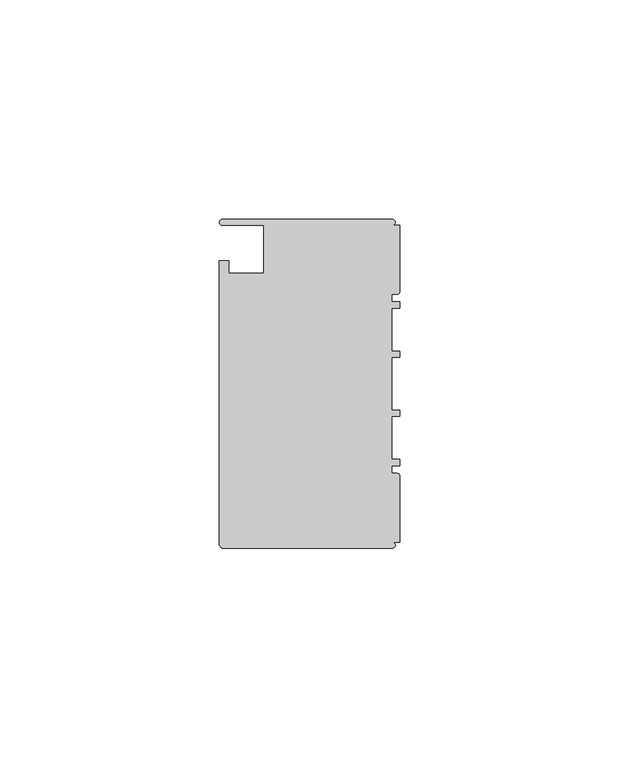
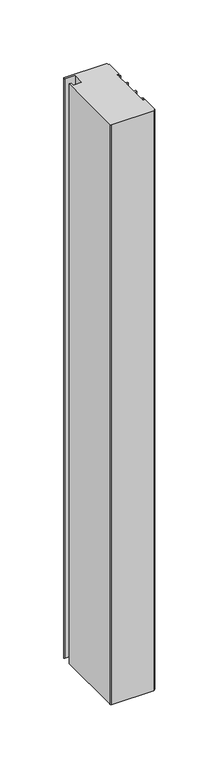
"""IFC4 building model written with IfcOpenShell, lengths in millimetres: member geometry, Прямоугольный импост : 1-AMG-1-Профиль 40Х75 Верх П."""

import ifcopenshell
import ifcopenshell.guid

model = None  # the IFC model being written
_history = None  # IfcOwnerHistory: only IFC2X3 demands one
_inside = {}  # id of a spatial element -> (the spatial element, [elements in it])
_under = {}  # id of a project, library or spatial element -> (it, [spatial elements below it])
_declared = {}  # id of a project -> (the project, [libraries it declares])
_typed = {}  # id of a type object -> (the type object, [elements of that type])
_made_of = {}  # id of a material, layer set ... -> (it, [elements and type objects made of it])


def new_model(schema):
    """Start an empty IFC model of exactly this schema.

    Asked for "IFC4X3", IfcOpenShell would pick the latest addendum, in which some entities
    have other attributes; the version numbers below select the first issue.
    IFC2X3 requires an IfcOwnerHistory on every rooted entity: one is made here for all.
    """
    global model, _history
    if schema == "IFC4X3":
        model = ifcopenshell.file(schema_version=(4, 3, 0, 0))
    else:
        model = ifcopenshell.file(schema=schema)
    _inside.clear()
    _under.clear()
    _declared.clear()
    _typed.clear()
    _made_of.clear()
    _history = None
    if model.schema == "IFC2X3":
        org = make("IfcOrganization", Name="unknown")
        user = make(
            "IfcPersonAndOrganization",
            ThePerson=make("IfcPerson", FamilyName="unknown"),
            TheOrganization=org,
        )
        app = make(
            "IfcApplication",
            ApplicationDeveloper=org,
            Version="unknown",
            ApplicationFullName="unknown",
            ApplicationIdentifier="unknown",
        )
        _history = make(
            "IfcOwnerHistory",
            OwningUser=user,
            OwningApplication=app,
            ChangeAction="ADDED",
            CreationDate=0,
        )
    return model


def make(cls, **values):
    """One entity of the class cls with the attributes given. An attribute that is None is left unset."""
    return model.create_entity(
        cls, **{name: value for name, value in values.items() if value is not None}
    )


def rooted(cls, **values):
    """An entity with a GlobalId (a new one), such as an element, a storey or a relation."""
    return make(cls, GlobalId=ifcopenshell.guid.new(), OwnerHistory=_history, **values)


def si_unit(unit_type, name, prefix=None):
    """IfcSIUnit, for example si_unit("LENGTHUNIT", "METRE", prefix="MILLI")."""
    return make("IfcSIUnit", UnitType=unit_type, Prefix=prefix, Name=name)


def assignment(units):
    """IfcUnitAssignment: the units of a project."""
    return None if units is None else make("IfcUnitAssignment", Units=units)


def point(xyz):
    """IfcCartesianPoint."""
    return None if xyz is None else make("IfcCartesianPoint", Coordinates=xyz)


def direction(xyz):
    """IfcDirection."""
    return None if xyz is None else make("IfcDirection", DirectionRatios=xyz)


def frame(location, z_axis=None, x_axis=None):
    """IfcAxis2Placement3D, a coordinate frame: its origin and axes. An axis left out is left unset."""
    return make(
        "IfcAxis2Placement3D",
        Location=point(location),
        Axis=direction(z_axis),
        RefDirection=direction(x_axis),
    )


def frame_2d(location, x_axis=None):
    """IfcAxis2Placement2D, a coordinate frame in the plane: its origin and x axis."""
    return make(
        "IfcAxis2Placement2D", Location=point(location), RefDirection=direction(x_axis)
    )


def origin():
    """The frame at (0, 0, 0) with its axes left unset."""
    return frame((0.0, 0.0, 0.0))


def place(relative_to, where):
    """IfcLocalPlacement: puts the frame where relative to a parent placement (None: the world)."""
    return make(
        "IfcLocalPlacement", PlacementRelTo=relative_to, RelativePlacement=where
    )


def context(
    kind, dimensions, precision=None, world=None, true_north=None, identifier=None
):
    """IfcGeometricRepresentationContext, for example the 3D "Model" context."""
    return make(
        "IfcGeometricRepresentationContext",
        ContextIdentifier=identifier,
        ContextType=kind,
        CoordinateSpaceDimension=dimensions,
        Precision=precision,
        WorldCoordinateSystem=world,
        TrueNorth=true_north,
    )


def project(units=None, contexts=None):
    """IfcProject with its units and contexts."""
    return rooted(
        "IfcProject",
        Name="project",
        RepresentationContexts=contexts,
        UnitsInContext=assignment(units),
    )


def spatial(cls, under=None, at=None, **own):
    """A site, building, storey or space (cls), placed at a placement, below another one or the project."""
    s = rooted(cls, ObjectPlacement=at, **own)
    if under is not None:
        _under.setdefault(under.id(), (under, []))[1].append(s)
    return s


def polyline(points):
    """IfcPolyline through the points."""
    return make("IfcPolyline", Points=[point(p) for p in points])


def circle_curve(where, radius):
    """IfcCircle in the frame where."""
    return make("IfcCircle", Position=where, Radius=radius)


def trimmed(basis, trim1, trim2, sense, master):
    """IfcTrimmedCurve: the piece of a basis curve between two trims."""
    return make(
        "IfcTrimmedCurve",
        BasisCurve=basis,
        Trim1=trim1,
        Trim2=trim2,
        SenseAgreement=sense,
        MasterRepresentation=master,
    )


def segment(curve, same_sense, transition):
    """IfcCompositeCurveSegment."""
    return make(
        "IfcCompositeCurveSegment",
        Transition=transition,
        SameSense=same_sense,
        ParentCurve=curve,
    )


def composite_curve(segments, self_intersect=None):
    """IfcCompositeCurve: segments joined end to end."""
    return make("IfcCompositeCurve", Segments=segments, SelfIntersect=self_intersect)


def outline(outer, holes=None, kind="AREA"):
    """IfcArbitraryClosedProfileDef: a profile drawn as a closed curve; with holes, ...WithVoids."""
    if holes is None:
        return make("IfcArbitraryClosedProfileDef", ProfileType=kind, OuterCurve=outer)
    return make(
        "IfcArbitraryProfileDefWithVoids",
        ProfileType=kind,
        OuterCurve=outer,
        InnerCurves=holes,
    )


def extrude(swept, where, along, depth):
    """IfcExtrudedAreaSolid: the profile swept, set in the frame where, extruded along a direction by depth."""
    return make(
        "IfcExtrudedAreaSolid",
        SweptArea=swept,
        Position=where,
        ExtrudedDirection=direction(along),
        Depth=depth,
    )


def shape(context_of_items, identifier, shape_type, items):
    """IfcShapeRepresentation: the items that make up one representation, for example the "Body"."""
    return make(
        "IfcShapeRepresentation",
        ContextOfItems=context_of_items,
        RepresentationIdentifier=identifier,
        RepresentationType=shape_type,
        Items=items,
    )


def source(mapping_origin, context_of_items, identifier, shape_type, items):
    """IfcRepresentationMap: a shape defined once, which mapped items show again and again."""
    return make(
        "IfcRepresentationMap",
        MappingOrigin=mapping_origin,
        MappedRepresentation=shape(context_of_items, identifier, shape_type, items),
    )


def transform(
    local_origin,
    x_axis=None,
    y_axis=None,
    z_axis=None,
    scale=None,
    scale2=None,
    scale3=None,
    uniform=True,
):
    """IfcCartesianTransformationOperator3D, or its non-uniform kind. x_axis, y_axis, z_axis: its Axis1, 2, 3."""
    if uniform:
        return make(
            "IfcCartesianTransformationOperator3D",
            Axis1=direction(x_axis),
            Axis2=direction(y_axis),
            LocalOrigin=point(local_origin),
            Scale=scale,
            Axis3=direction(z_axis),
        )
    return make(
        "IfcCartesianTransformationOperator3DnonUniform",
        Axis1=direction(x_axis),
        Axis2=direction(y_axis),
        LocalOrigin=point(local_origin),
        Scale=scale,
        Axis3=direction(z_axis),
        Scale2=scale2,
        Scale3=scale3,
    )


def mapped(mapping_source, mapping_target):
    """IfcMappedItem: shows the shape of a source again, moved by a transform."""
    return make(
        "IfcMappedItem", MappingSource=mapping_source, MappingTarget=mapping_target
    )


def made_of(thing, what):
    """Note that an element or type object is made of a material, layer set ...; save() writes the relation."""
    if what is not None:
        _made_of.setdefault(what.id(), (what, []))[1].append(thing)
    return thing


def element(
    cls,
    number,
    at=None,
    inside=None,
    cuts=None,
    type_object=None,
    material=None,
    context=None,
    identifier="Body",
    shape_type=None,
    held_by="IfcProductDefinitionShape",
    body=None,
    shapes=None,
    **own,
):
    """One element of the class cls, such as IfcWall. Its Tag is "e" and its number.

    at: its placement. inside: the storey or other place that contains it. cuts: it is an
    opening in that element (IfcRelVoidsElement). A single representation is given by context,
    identifier, shape_type and body (its items); several are given by shapes. held_by: the class
    of the entity that holds the representations. save() writes the other relations.
    """
    e = rooted(cls, Tag="e%d" % number, ObjectPlacement=at, **own)
    if body is not None:
        shapes = [shape(context, identifier, shape_type, body)]
    if shapes is not None:
        e.Representation = make(held_by, Representations=shapes)
    if inside is not None:
        _inside.setdefault(inside.id(), (inside, []))[1].append(e)
    if cuts is not None:
        rooted(
            "IfcRelVoidsElement", RelatingBuildingElement=cuts, RelatedOpeningElement=e
        )
    if type_object is not None:
        _typed.setdefault(type_object.id(), (type_object, []))[1].append(e)
    return made_of(e, material)


def aggregate(whole, parts):
    """IfcRelAggregates: a whole, such as a stair, and the parts it consists of."""
    return rooted("IfcRelAggregates", RelatingObject=whole, RelatedObjects=parts)


def save(model, path):
    """Write the relations noted so far, then the file.

    IfcRelAggregates (storeys below a building ...), IfcRelContainedInSpatialStructure (elements
    in a storey), IfcRelDefinesByType, IfcRelAssociatesMaterial and IfcRelDeclares: one each for
    every whole, place, type object, material and project.
    """
    for whole, parts in _under.values():
        aggregate(whole, parts)
    for where, things in _inside.values():
        rooted(
            "IfcRelContainedInSpatialStructure",
            RelatedElements=things,
            RelatingStructure=where,
        )
    for kind, things in _typed.values():
        rooted("IfcRelDefinesByType", RelatedObjects=things, RelatingType=kind)
    for what, things in _made_of.values():
        rooted("IfcRelAssociatesMaterial", RelatedObjects=things, RelatingMaterial=what)
    for by, libraries in _declared.values():
        rooted("IfcRelDeclares", RelatingContext=by, RelatedDefinitions=libraries)
    model.write(path)


def member_138647c5(model_context):
    return source(origin(), model_context, "Body", "SweptSolid", [
        extrude(outline(composite_curve([segment(polyline([(37.5, -1.7), (37.5, -40.4)]), True, "CONTINUOUS"), segment(trimmed(circle_curve(frame_2d((36.8, -40.4)), 0.7), [point((37.5, -40.4))], [point((36.1, -40.4))], False, "CARTESIAN"), True, "CONTINUOUS"), segment(polyline([(36.1, -40.4), (36.1, -31.0), (25.25, -31.0), (25.25, -39.0), (28.1, -39.0), (28.1, -41.1), (-36.1, -41.1)]), True, "CONTINUOUS"), segment(trimmed(circle_curve(frame_2d((-36.3020763, -39.7541527)), 1.3609334), [point((-36.1, -41.1))], [point((-37.5, -40.4))], False, "CARTESIAN"), True, "CONTINUOUS"), segment(polyline([(-37.5, -40.4), (-37.5, -1.7)]), True, "CONTINUOUS"), segment(trimmed(circle_curve(frame_2d((-36.8, -1.7)), 0.7), [point((-37.5, -1.7))], [point((-36.1, -1.7))], False, "CARTESIAN"), True, "CONTINUOUS"), segment(polyline([(-36.1, -1.7), (-36.1, 0.0), (-20.95, 0.0)]), True, "CONTINUOUS"), segment(trimmed(circle_curve(frame_2d((-20.95, -0.5)), 0.5), [point((-20.95, 0.0))], [point((-20.45, -0.5))], False, "CARTESIAN"), True, "CONTINUOUS"), segment(polyline([(-20.45, -0.5), (-20.45, -1.8), (-18.65, -1.8), (-18.65, 0.0), (-17.25, 0.0), (-17.25, -1.8), (-7.4, -1.8), (-7.4, 0.0), (-6.0, 0.0), (-6.0, -1.8), (6.0, -1.8), (6.0, 0.0), (7.4, 0.0), (7.4, -1.8), (17.25, -1.8), (17.25, 0.0), (18.65, 0.0), (18.65, -1.8), (20.45, -1.8), (20.45, -0.5)]), True, "CONTINUOUS"), segment(trimmed(circle_curve(frame_2d((20.95, -0.5)), 0.5), [point((20.45, -0.5))], [point((20.95, 0.0))], False, "CARTESIAN"), True, "CONTINUOUS"), segment(polyline([(20.95, 0.0), (36.1, 0.0), (36.1, -1.7)]), True, "CONTINUOUS"), segment(trimmed(circle_curve(frame_2d((36.8, -1.7)), 0.7), [point((36.1, -1.7))], [point((37.5, -1.7))], False, "CARTESIAN"), True, "CONTINUOUS")], self_intersect=False)), frame((0.0, 0.0, 0.0), z_axis=(0.0, 0.0, -1.0), x_axis=(0.0, 1.0, 0.0)), (0.0, 0.0, 1.0), 560.0),
    ])


if __name__ == "__main__":
    model = new_model("IFC4")
    model_context = context("Model", 3, world=origin())
    ifc_project = project(units=[si_unit("LENGTHUNIT", "METRE", prefix="MILLI")], contexts=[model_context])
    site = spatial("IfcSite", under=ifc_project)
    building = spatial("IfcBuilding", under=site)
    placement = place(None, origin())
    member_shape = member_138647c5(model_context)
    element("IfcMember", 1, ObjectType="Прямоугольный импост : 1-AMG-1-Профиль 40Х75 Верх П", at=placement, inside=building, context=model_context, shape_type="MappedRepresentation", body=[
        mapped(member_shape, transform((0.0, 0.0, 0.0), x_axis=(1.0, 0.0, 0.0), y_axis=(0.0, 1.0, 0.0), z_axis=(0.0, 0.0, 1.0))),
    ])
    save(model, "model.ifc")
